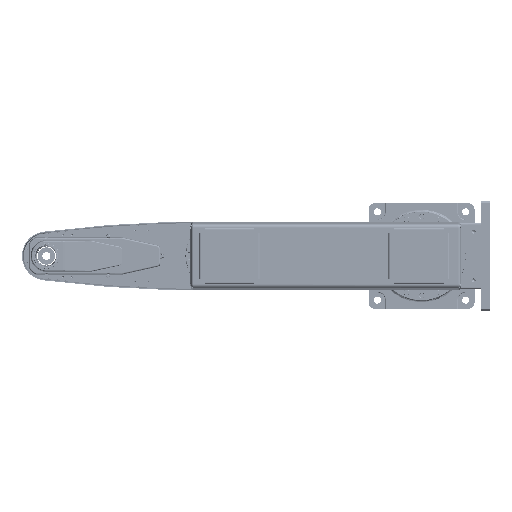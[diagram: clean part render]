
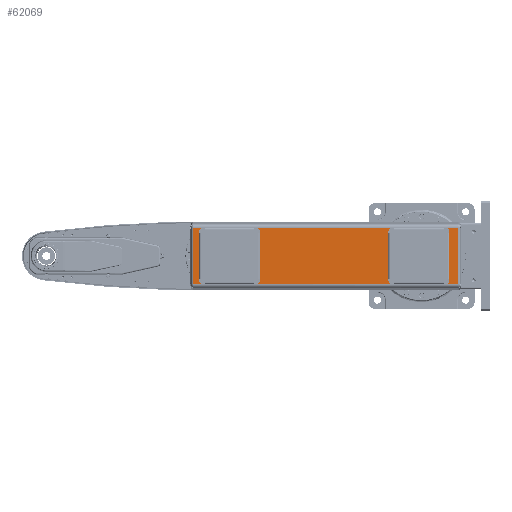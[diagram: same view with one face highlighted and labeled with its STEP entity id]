
A CAD part, front view. The second image highlights one B-rep face of the part: STEP entity #62069.
In plain terms, the highlighted planar face has unit normal (0, -1, 0).
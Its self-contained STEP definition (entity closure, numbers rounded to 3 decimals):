
#44105=DIRECTION('',(1.,0.,0.));
#44106=VECTOR('',#44105,599.818);
#44107=CARTESIAN_POINT('',(-516.909,-282.3,
-64.195));
#44108=LINE('',#44107,#44106);
#44119=CARTESIAN_POINT('',(82.909,-282.3,
-64.195));
#44197=DIRECTION('',(0.,0.,1.));
#44198=VECTOR('',#44197,128.39);
#44199=CARTESIAN_POINT('',(82.909,-282.3,
-64.195));
#44200=LINE('',#44199,#44198);
#44201=DIRECTION('',(0.,0.,-1.));
#44202=VECTOR('',#44201,128.39);
#44203=CARTESIAN_POINT('',(-516.909,-282.3,
64.195));
#44204=LINE('',#44203,#44202);
#44205=DIRECTION('',(-1.,0.,0.));
#44206=VECTOR('',#44205,122.);
#44207=CARTESIAN_POINT('',(55.,-282.3,-63.5));
#44208=LINE('',#44207,#44206);
#44209=CARTESIAN_POINT('',(55.,-282.3,-55.5));
#44210=DIRECTION('',(0.,1.,0.));
#44211=DIRECTION('',(1.,0.,0.));
#44212=AXIS2_PLACEMENT_3D('',#44209,#44210,#44211);
#44214=DIRECTION('',(0.,0.,-1.));
#44215=VECTOR('',#44214,111.);
#44216=CARTESIAN_POINT('',(63.,-282.3,55.5));
#44217=LINE('',#44216,#44215);
#44218=CARTESIAN_POINT('',(55.,-282.3,55.5));
#44219=DIRECTION('',(0.,1.,0.));
#44220=DIRECTION('',(0.,0.,1.));
#44221=AXIS2_PLACEMENT_3D('',#44218,#44219,#44220);
#44223=DIRECTION('',(1.,0.,0.));
#44224=VECTOR('',#44223,122.);
#44225=CARTESIAN_POINT('',(-67.,-282.3,63.5));
#44226=LINE('',#44225,#44224);
#44227=CARTESIAN_POINT('',(-67.,-282.3,55.5));
#44228=DIRECTION('',(0.,1.,0.));
#44229=DIRECTION('',(-1.,0.,0.));
#44230=AXIS2_PLACEMENT_3D('',#44227,#44228,#44229);
#44232=DIRECTION('',(0.,0.,1.));
#44233=VECTOR('',#44232,111.);
#44234=CARTESIAN_POINT('',(-75.,-282.3,-55.5));
#44235=LINE('',#44234,#44233);
#44236=CARTESIAN_POINT('',(-67.,-282.3,-55.5));
#44237=DIRECTION('',(0.,1.,0.));
#44238=DIRECTION('',(0.,0.,-1.));
#44239=AXIS2_PLACEMENT_3D('',#44236,#44237,#44238);
#44241=DIRECTION('',(-1.,0.,0.));
#44242=VECTOR('',#44241,122.);
#44243=CARTESIAN_POINT('',(-374.,-282.3,-63.5));
#44244=LINE('',#44243,#44242);
#44245=CARTESIAN_POINT('',(-374.,-282.3,-55.5));
#44246=DIRECTION('',(0.,1.,0.));
#44247=DIRECTION('',(1.,0.,0.));
#44248=AXIS2_PLACEMENT_3D('',#44245,#44246,#44247);
#44250=DIRECTION('',(0.,0.,-1.));
#44251=VECTOR('',#44250,111.);
#44252=CARTESIAN_POINT('',(-366.,-282.3,55.5));
#44253=LINE('',#44252,#44251);
#44254=CARTESIAN_POINT('',(-374.,-282.3,55.5));
#44255=DIRECTION('',(0.,1.,0.));
#44256=DIRECTION('',(0.,0.,1.));
#44257=AXIS2_PLACEMENT_3D('',#44254,#44255,#44256);
#44259=DIRECTION('',(1.,0.,0.));
#44260=VECTOR('',#44259,122.);
#44261=CARTESIAN_POINT('',(-496.,-282.3,63.5));
#44262=LINE('',#44261,#44260);
#44263=CARTESIAN_POINT('',(-496.,-282.3,55.5));
#44264=DIRECTION('',(0.,1.,0.));
#44265=DIRECTION('',(-1.,0.,0.));
#44266=AXIS2_PLACEMENT_3D('',#44263,#44264,#44265);
#44268=DIRECTION('',(0.,0.,1.));
#44269=VECTOR('',#44268,111.);
#44270=CARTESIAN_POINT('',(-504.,-282.3,-55.5));
#44271=LINE('',#44270,#44269);
#44272=CARTESIAN_POINT('',(-496.,-282.3,-55.5));
#44273=DIRECTION('',(0.,1.,0.));
#44274=DIRECTION('',(0.,0.,-1.));
#44275=AXIS2_PLACEMENT_3D('',#44272,#44273,#44274);
#44323=DIRECTION('',(-1.,0.,0.));
#44324=VECTOR('',#44323,599.818);
#44325=CARTESIAN_POINT('',(82.909,-282.3,
64.195));
#44326=LINE('',#44325,#44324);
#44337=CARTESIAN_POINT('',(-516.909,-282.3,
64.195));
#54861=VERTEX_POINT('',#44337);
#54864=CARTESIAN_POINT('',(-516.909,-282.3,
-64.195));
#54865=VERTEX_POINT('',#54864);
#55555=VERTEX_POINT('',#44119);
#55558=CARTESIAN_POINT('',(82.909,-282.3,
64.195));
#55559=VERTEX_POINT('',#55558);
#56224=CARTESIAN_POINT('',(55.,-282.3,-63.5));
#56225=CARTESIAN_POINT('',(-67.,-282.3,-63.5));
#56226=VERTEX_POINT('',#56224);
#56227=VERTEX_POINT('',#56225);
#56228=CARTESIAN_POINT('',(-75.,-282.3,-55.5));
#56229=VERTEX_POINT('',#56228);
#56230=CARTESIAN_POINT('',(-75.,-282.3,55.5));
#56231=CARTESIAN_POINT('',(-67.,-282.3,63.5));
#56232=VERTEX_POINT('',#56230);
#56233=VERTEX_POINT('',#56231);
#56234=CARTESIAN_POINT('',(55.,-282.3,63.5));
#56235=VERTEX_POINT('',#56234);
#56236=CARTESIAN_POINT('',(63.,-282.3,55.5));
#56237=VERTEX_POINT('',#56236);
#56238=CARTESIAN_POINT('',(63.,-282.3,-55.5));
#56239=VERTEX_POINT('',#56238);
#56532=CARTESIAN_POINT('',(-374.,-282.3,-63.5));
#56533=CARTESIAN_POINT('',(-496.,-282.3,-63.5));
#56534=VERTEX_POINT('',#56532);
#56535=VERTEX_POINT('',#56533);
#56536=CARTESIAN_POINT('',(-504.,-282.3,-55.5));
#56537=VERTEX_POINT('',#56536);
#56538=CARTESIAN_POINT('',(-504.,-282.3,55.5));
#56539=CARTESIAN_POINT('',(-496.,-282.3,63.5));
#56540=VERTEX_POINT('',#56538);
#56541=VERTEX_POINT('',#56539);
#56542=CARTESIAN_POINT('',(-374.,-282.3,63.5));
#56543=VERTEX_POINT('',#56542);
#56544=CARTESIAN_POINT('',(-366.,-282.3,55.5));
#56545=VERTEX_POINT('',#56544);
#56546=CARTESIAN_POINT('',(-366.,-282.3,-55.5));
#56547=VERTEX_POINT('',#56546);
#62019=CARTESIAN_POINT('',(78.,-282.3,-71.));
#62020=DIRECTION('',(0.,-1.,0.));
#62021=DIRECTION('',(0.,0.,1.));
#62022=AXIS2_PLACEMENT_3D('',#62019,#62020,#62021);
#62023=PLANE('',#62022);
#62025=ORIENTED_EDGE('',*,*,#62024,.F.);
#62027=ORIENTED_EDGE('',*,*,#62026,.F.);
#62028=ORIENTED_EDGE('',*,*,#62001,.F.);
#62030=ORIENTED_EDGE('',*,*,#62029,.F.);
#62031=EDGE_LOOP('',(#62025,#62027,#62028,#62030));
#62032=FACE_OUTER_BOUND('',#62031,.F.);
#62034=ORIENTED_EDGE('',*,*,#62033,.F.);
#62036=ORIENTED_EDGE('',*,*,#62035,.F.);
#62038=ORIENTED_EDGE('',*,*,#62037,.F.);
#62040=ORIENTED_EDGE('',*,*,#62039,.F.);
#62042=ORIENTED_EDGE('',*,*,#62041,.F.);
#62044=ORIENTED_EDGE('',*,*,#62043,.F.);
#62046=ORIENTED_EDGE('',*,*,#62045,.F.);
#62048=ORIENTED_EDGE('',*,*,#62047,.F.);
#62049=EDGE_LOOP('',(#62034,#62036,#62038,#62040,#62042,#62044,#62046,#62048));
#62050=FACE_BOUND('',#62049,.F.);
#62052=ORIENTED_EDGE('',*,*,#62051,.F.);
#62054=ORIENTED_EDGE('',*,*,#62053,.F.);
#62056=ORIENTED_EDGE('',*,*,#62055,.F.);
#62058=ORIENTED_EDGE('',*,*,#62057,.F.);
#62060=ORIENTED_EDGE('',*,*,#62059,.F.);
#62062=ORIENTED_EDGE('',*,*,#62061,.F.);
#62064=ORIENTED_EDGE('',*,*,#62063,.F.);
#62066=ORIENTED_EDGE('',*,*,#62065,.F.);
#62067=EDGE_LOOP('',(#62052,#62054,#62056,#62058,#62060,#62062,#62064,#62066));
#62068=FACE_BOUND('',#62067,.F.);
#62069=ADVANCED_FACE('',(#62032,#62050,#62068),#62023,.T.);
#44213=CIRCLE('',#44212,8.);
#44222=CIRCLE('',#44221,8.);
#44231=CIRCLE('',#44230,8.);
#44240=CIRCLE('',#44239,8.);
#44249=CIRCLE('',#44248,8.);
#44258=CIRCLE('',#44257,8.);
#44267=CIRCLE('',#44266,8.);
#44276=CIRCLE('',#44275,8.);
#62001=EDGE_CURVE('',#54865,#55555,#44108,.T.);
#62024=EDGE_CURVE('',#55559,#54861,#44326,.T.);
#62026=EDGE_CURVE('',#55555,#55559,#44200,.T.);
#62029=EDGE_CURVE('',#54861,#54865,#44204,.T.);
#62033=EDGE_CURVE('',#56226,#56227,#44208,.T.);
#62035=EDGE_CURVE('',#56239,#56226,#44213,.T.);
#62037=EDGE_CURVE('',#56237,#56239,#44217,.T.);
#62039=EDGE_CURVE('',#56235,#56237,#44222,.T.);
#62041=EDGE_CURVE('',#56233,#56235,#44226,.T.);
#62043=EDGE_CURVE('',#56232,#56233,#44231,.T.);
#62045=EDGE_CURVE('',#56229,#56232,#44235,.T.);
#62047=EDGE_CURVE('',#56227,#56229,#44240,.T.);
#62051=EDGE_CURVE('',#56534,#56535,#44244,.T.);
#62053=EDGE_CURVE('',#56547,#56534,#44249,.T.);
#62055=EDGE_CURVE('',#56545,#56547,#44253,.T.);
#62057=EDGE_CURVE('',#56543,#56545,#44258,.T.);
#62059=EDGE_CURVE('',#56541,#56543,#44262,.T.);
#62061=EDGE_CURVE('',#56540,#56541,#44267,.T.);
#62063=EDGE_CURVE('',#56537,#56540,#44271,.T.);
#62065=EDGE_CURVE('',#56535,#56537,#44276,.T.);
